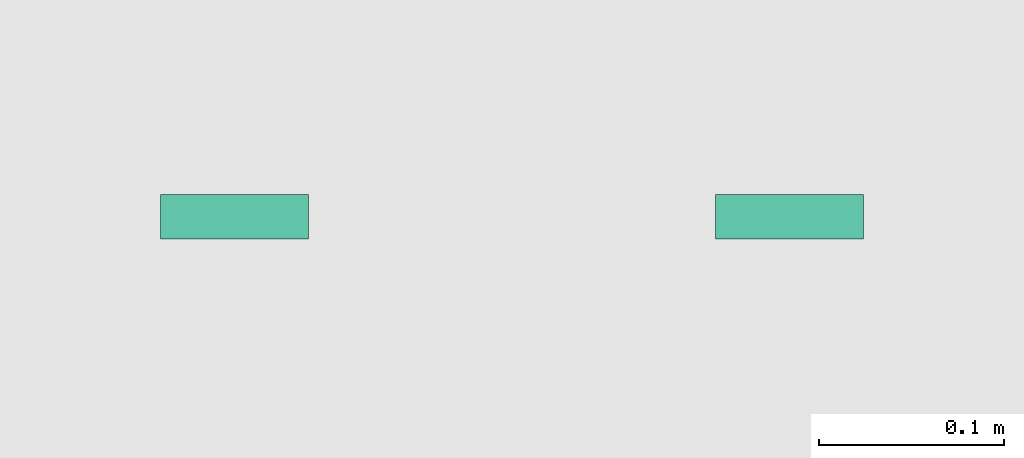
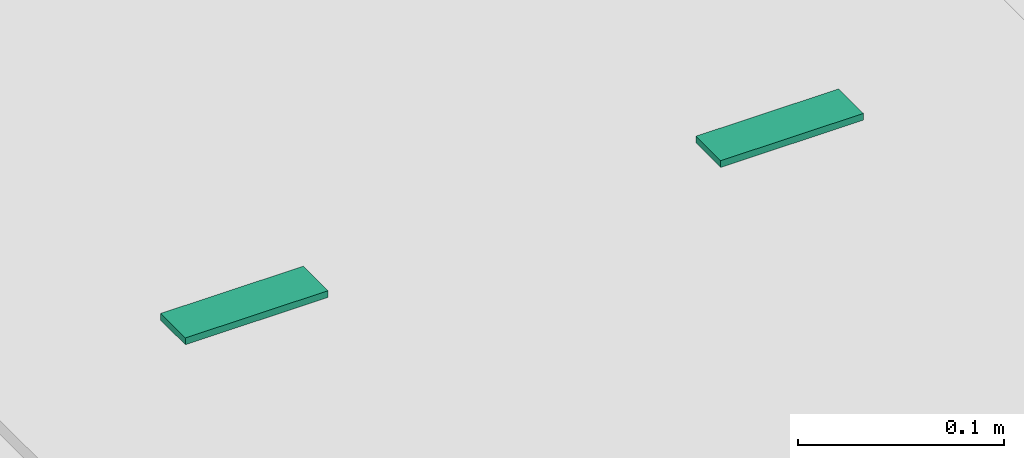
# One storey, part 141 of 177: 2 distribution chamber elements.
"""IFC4 building model written with IfcOpenShell, lengths in metres."""

from ifc_helpers import new_model, si_unit, origin, origin_with_axes, place, context, subcontext, project, spatial, triangles, element, save


model = new_model("IFC4")

# Units and contexts
model_context = context("Model", 3, precision=1e-05, world=origin_with_axes())
body_context = subcontext(model_context, "Body", "Model", "MODEL_VIEW")
ifc_project = project(units=[si_unit("LENGTHUNIT", "METRE"), si_unit("AREAUNIT", "SQUARE_METRE"), si_unit("VOLUMEUNIT", "CUBIC_METRE"), si_unit("PLANEANGLEUNIT", "RADIAN")], contexts=[model_context])

# Site, building, storey
site_placement = place(None, origin_with_axes())
site = spatial("IfcSite", under=ifc_project, at=site_placement, Name="Predio Los Mangos - Morales, San Martín", CompositionType="ELEMENT")
building_placement = place(site_placement, origin())
building = spatial("IfcBuilding", under=site, at=building_placement, Name="Hogar de Refugio Temporal", CompositionType="ELEMENT")
storey_placement = place(building_placement, origin())
storey = spatial("IfcBuildingStorey", under=building, at=storey_placement, Name="NIVEL 1 (NPT +0.00)", CompositionType="ELEMENT", Elevation=0.0)

# Distribution chamber elements
distribution_chamber_element_1_placement = place(storey_placement, origin())
element("IfcDistributionChamberElement", 1, at=distribution_chamber_element_1_placement, inside=storey, Name="tapa_insp_asa", ObjectType="Tapa de inspección", PredefinedType="INSPECTIONCHAMBER", context=body_context, shape_type="Tessellation", body=[
    triangles([(48.759, 88.317, 0.17), (48.839, 88.317, 0.17), (48.839, 88.341, 0.17), (48.759, 88.341, 0.17), (48.759, 88.317, 0.174), (48.839, 88.317, 0.174), (48.839, 88.341, 0.174), (48.759, 88.341, 0.174)], [[1, 4, 3], [1, 3, 2], [5, 6, 7], [5, 7, 8], [1, 2, 6], [1, 6, 5], [2, 3, 7], [2, 7, 6], [3, 4, 8], [3, 8, 7], [4, 1, 5], [4, 5, 8]]),
])
distribution_chamber_element_2_placement = place(storey_placement, origin())
element("IfcDistributionChamberElement", 2, at=distribution_chamber_element_2_placement, inside=storey, Name="tapa_insp_asa", ObjectType="Tapa de inspección", PredefinedType="INSPECTIONCHAMBER", context=body_context, shape_type="Tessellation", body=[
    triangles([(49.059, 88.317, 0.17), (49.139, 88.317, 0.17), (49.139, 88.341, 0.17), (49.059, 88.341, 0.17), (49.059, 88.317, 0.174), (49.139, 88.317, 0.174), (49.139, 88.341, 0.174), (49.059, 88.341, 0.174)], [[1, 4, 3], [1, 3, 2], [5, 6, 7], [5, 7, 8], [1, 2, 6], [1, 6, 5], [2, 3, 7], [2, 7, 6], [3, 4, 8], [3, 8, 7], [4, 1, 5], [4, 5, 8]]),
])

save(model, "model.ifc")
